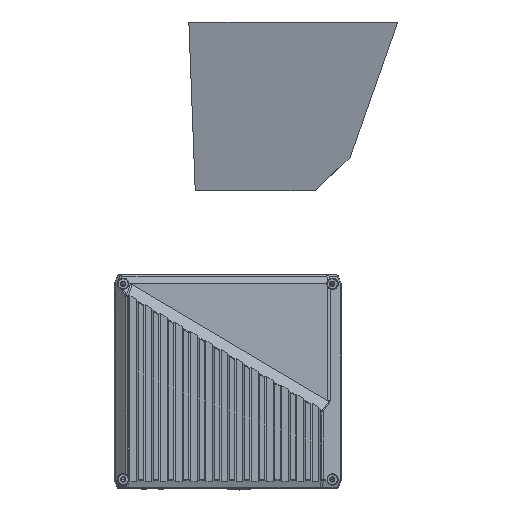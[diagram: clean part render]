
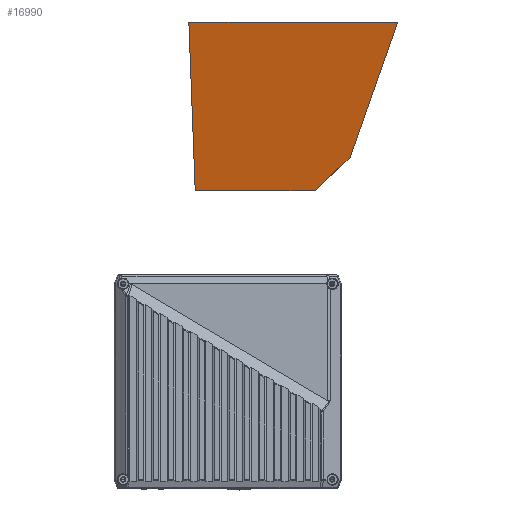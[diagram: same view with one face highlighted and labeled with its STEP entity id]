
A CAD part, top view. The second image highlights one B-rep face of the part: STEP entity #16990.
In plain terms, the highlighted planar face has unit normal (0, -0.224, 0.975).
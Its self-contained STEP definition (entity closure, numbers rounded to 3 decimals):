
#16839=DIRECTION('',(1.,0.,0.));
#16840=VECTOR('',#16839,71.165);
#16841=CARTESIAN_POINT('',(-19.302,113.25,-23.594));
#16842=LINE('',#16841,#16840);
#16859=DIRECTION('',(0.037,-0.974,-0.224));
#16860=VECTOR('',#16859,102.687);
#16861=CARTESIAN_POINT('',(-23.074,213.25,-0.563));
#16862=LINE('',#16861,#16860);
#16871=DIRECTION('',(1.,0.,0.));
#16872=VECTOR('',#16871,123.825);
#16873=CARTESIAN_POINT('',(-23.074,213.25,-0.563));
#16874=LINE('',#16873,#16872);
#16875=DIRECTION('',(-0.712,-0.684,-0.158));
#16876=VECTOR('',#16875,29.047);
#16877=CARTESIAN_POINT('',(72.549,133.122,
-19.018));
#16878=LINE('',#16877,#16876);
#16891=DIRECTION('',(-0.324,-0.922,-0.212));
#16892=VECTOR('',#16891,86.928);
#16893=CARTESIAN_POINT('',(100.751,213.25,-0.563));
#16894=LINE('',#16893,#16892);
#16895=CARTESIAN_POINT('',(72.549,133.122,
-19.018));
#16897=VERTEX_POINT('',#16895);
#16900=CARTESIAN_POINT('',(-23.074,213.25,-0.563));
#16902=VERTEX_POINT('',#16900);
#16903=CARTESIAN_POINT('',(100.751,213.25,-0.563));
#16904=VERTEX_POINT('',#16903);
#16907=CARTESIAN_POINT('',(-19.302,113.25,-23.594));
#16909=VERTEX_POINT('',#16907);
#16913=CARTESIAN_POINT('',(51.863,113.25,-23.594));
#16914=VERTEX_POINT('',#16913);
#16976=CARTESIAN_POINT('',(-361.,420.759,47.23));
#16977=DIRECTION('',(0.,-0.224,0.974));
#16978=DIRECTION('',(0.,-0.974,-0.224));
#16979=AXIS2_PLACEMENT_3D('',#16976,#16977,#16978);
#16980=PLANE('',#16979);
#16981=ORIENTED_EDGE('',*,*,#16922,.F.);
#16982=ORIENTED_EDGE('',*,*,#16941,.F.);
#16984=ORIENTED_EDGE('',*,*,#16983,.T.);
#16986=ORIENTED_EDGE('',*,*,#16985,.T.);
#16987=ORIENTED_EDGE('',*,*,#16968,.T.);
#16988=EDGE_LOOP('',(#16981,#16982,#16984,#16986,#16987));
#16989=FACE_OUTER_BOUND('',#16988,.F.);
#16922=EDGE_CURVE('',#16909,#16914,#16842,.T.);
#16941=EDGE_CURVE('',#16902,#16909,#16862,.T.);
#16968=EDGE_CURVE('',#16897,#16914,#16878,.T.);
#16983=EDGE_CURVE('',#16902,#16904,#16874,.T.);
#16985=EDGE_CURVE('',#16904,#16897,#16894,.T.);
#16990=ADVANCED_FACE('',(#16989),#16980,.T.);
